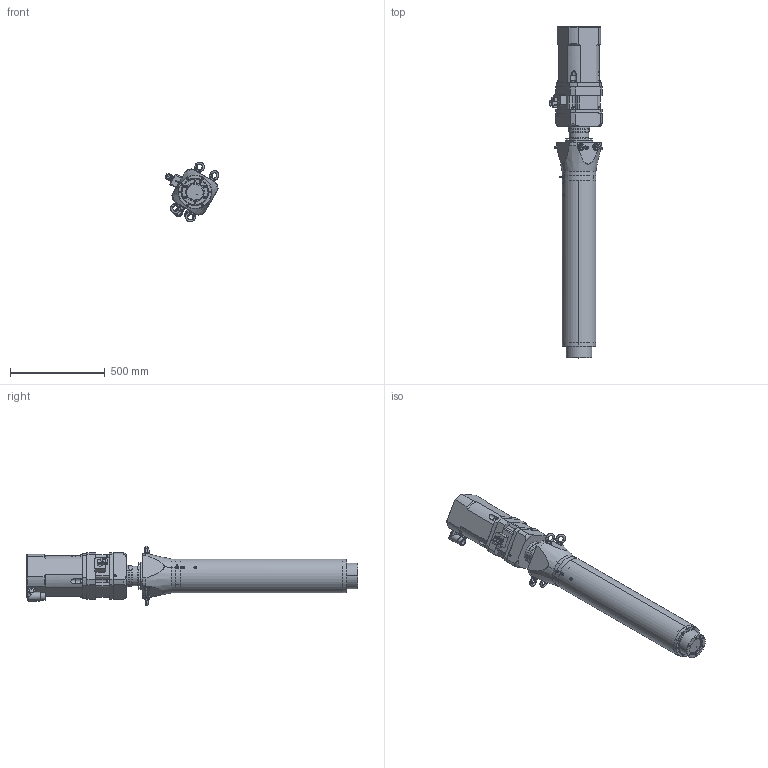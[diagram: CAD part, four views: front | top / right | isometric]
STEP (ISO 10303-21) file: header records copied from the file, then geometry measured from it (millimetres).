
FILE_DESCRIPTION (( 'STEP AP214' ), '1' );
FILE_NAME ('RLWIK060D-055-025SG0.STEP', '2023-04-06T05:28:40', ( '' ), ( '' ), 'SwSTEP 2.0', 'SolidWorks 2021', '' );
FILE_SCHEMA (( 'AUTOMOTIVE_DESIGN' ));
Length unit declared in the file: millimetre
Products named in the file (1): RLWIK060D-055-025SG0
Bounding box: 284.62 x 1753.5 x 316.86 mm (x, y, z)
Volume: 38171054.2 mm3; surface area: 2765074.5 mm2
Topology: 39 solids, 39 shells, 1506 faces, 3559 edges, 2122 vertices
Faces by surface type: cylinder 566, plane 506, cone 246, torus 112, bspline 74, sphere 2
Entity records: 65124 total; most frequent: CARTESIAN_POINT 13689, DIRECTION 7595, ORIENTED_EDGE 6798, EDGE_CURVE 3399, AXIS2_PLACEMENT_3D 3015, VERTEX_POINT 2122, EDGE_LOOP 1755, CIRCLE 1582
